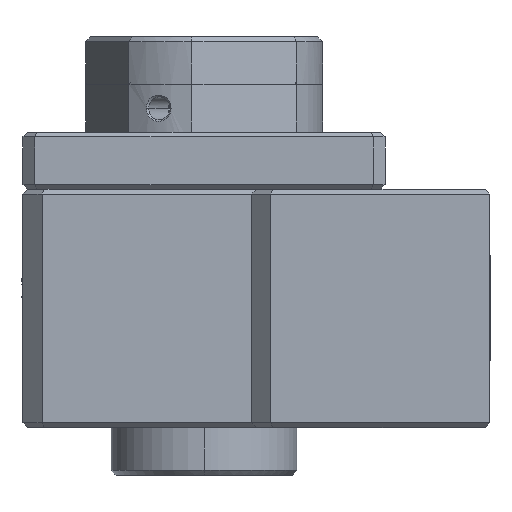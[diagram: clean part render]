
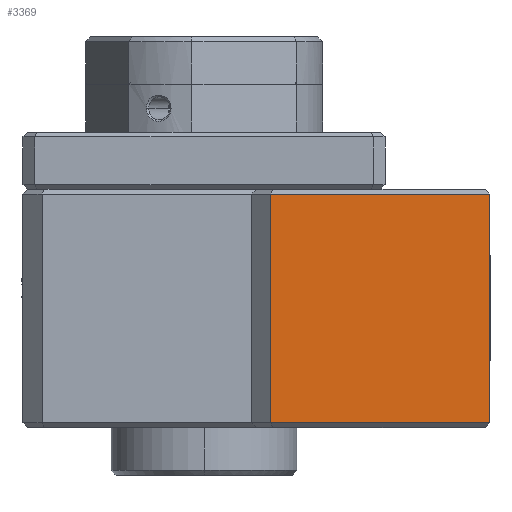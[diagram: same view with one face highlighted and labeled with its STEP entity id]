
A CAD part, left-side view. The second image highlights one B-rep face of the part: STEP entity #3369.
In plain terms, the highlighted planar face has unit normal (1, 0, 0).
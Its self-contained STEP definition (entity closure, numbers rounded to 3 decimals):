
#15 = EDGE_CURVE ( 'NONE', #11562, #10025, #12438, .T. ) ;
#140 = CARTESIAN_POINT ( 'NONE',  ( -33.938, 22.813, -4. ) ) ;
#545 = CARTESIAN_POINT ( 'NONE',  ( -33.938, -0.187, -12. ) ) ;
#900 = CARTESIAN_POINT ( 'NONE',  ( -33.938, 15.146, 12. ) ) ;
#1010 = CARTESIAN_POINT ( 'NONE',  ( -33.938, -0.187, -12. ) ) ;
#1168 = EDGE_CURVE ( 'NONE', #6449, #4175, #3472, .T. ) ;
#1361 = AXIS2_PLACEMENT_3D ( 'NONE', #6855, #5294, #10913 ) ;
#2297 = ORIENTED_EDGE ( 'NONE', *, *, #1168, .T. ) ;
#3073 = CARTESIAN_POINT ( 'NONE',  ( -33.938, -0.187, 12. ) ) ;
#3369 = ADVANCED_FACE ( 'NONE', ( #6672 ), #15150, .T. ) ;
#3472 = B_SPLINE_CURVE_WITH_KNOTS ( 'NONE', 3,
 ( #9026, #900, #6513, #13421 ),
 .UNSPECIFIED., .F., .F.,
 ( 4, 4 ),
 ( 0., 1. ),
 .UNSPECIFIED. ) ;
#3871 = ORIENTED_EDGE ( 'NONE', *, *, #9943, .F. ) ;
#3957 = CARTESIAN_POINT ( 'NONE',  ( -33.938, -0.187, 12. ) ) ;
#4175 = VERTEX_POINT ( 'NONE', #3073 ) ;
#5144 = CARTESIAN_POINT ( 'NONE',  ( -33.938, 22.813, 12. ) ) ;
#5294 = DIRECTION ( 'NONE',  ( 1., 0., 0. ) ) ;
#5693 = CARTESIAN_POINT ( 'NONE',  ( -33.938, 22.813, -12. ) ) ;
#5960 = CARTESIAN_POINT ( 'NONE',  ( -33.938, 22.813, 12. ) ) ;
#6449 = VERTEX_POINT ( 'NONE', #5144 ) ;
#6513 = CARTESIAN_POINT ( 'NONE',  ( -33.938, 7.48, 12. ) ) ;
#6626 = CARTESIAN_POINT ( 'NONE',  ( -33.938, 22.813, -12. ) ) ;
#6672 = FACE_OUTER_BOUND ( 'NONE', #14081, .T. ) ;
#6855 = CARTESIAN_POINT ( 'NONE',  ( -33.938, -0.187, 12. ) ) ;
#7932 = ORIENTED_EDGE ( 'NONE', *, *, #15, .T. ) ;
#7936 = CARTESIAN_POINT ( 'NONE',  ( -33.938, 7.48, -12. ) ) ;
#9026 = CARTESIAN_POINT ( 'NONE',  ( -33.938, 22.813, 12. ) ) ;
#9943 = EDGE_CURVE ( 'NONE', #11562, #4175, #13984, .T. ) ;
#10025 = VERTEX_POINT ( 'NONE', #5693 ) ;
#10096 = CARTESIAN_POINT ( 'NONE',  ( -33.938, 22.813, -12. ) ) ;
#10913 = DIRECTION ( 'NONE',  ( 0., 1., 0. ) ) ;
#10946 = CARTESIAN_POINT ( 'NONE',  ( -33.938, -0.187, -4. ) ) ;
#11562 = VERTEX_POINT ( 'NONE', #545 ) ;
#12324 = CARTESIAN_POINT ( 'NONE',  ( -33.938, -0.187, -12. ) ) ;
#12438 = B_SPLINE_CURVE_WITH_KNOTS ( 'NONE', 3,
 ( #1010, #7936, #15003, #6626 ),
 .UNSPECIFIED., .F., .F.,
 ( 4, 4 ),
 ( 0., 1. ),
 .UNSPECIFIED. ) ;
#12949 = CARTESIAN_POINT ( 'NONE',  ( -33.938, 22.813, 4. ) ) ;
#13152 = B_SPLINE_CURVE_WITH_KNOTS ( 'NONE', 3,
 ( #10096, #140, #12949, #5960 ),
 .UNSPECIFIED., .F., .F.,
 ( 4, 4 ),
 ( 0., 1. ),
 .UNSPECIFIED. ) ;
#13421 = CARTESIAN_POINT ( 'NONE',  ( -33.938, -0.187, 12. ) ) ;
#13984 = B_SPLINE_CURVE_WITH_KNOTS ( 'NONE', 3,
 ( #12324, #10946, #16533, #3957 ),
 .UNSPECIFIED., .F., .F.,
 ( 4, 4 ),
 ( 0., 1. ),
 .UNSPECIFIED. ) ;
#14081 = EDGE_LOOP ( 'NONE', ( #7932, #17149, #2297, #3871 ) ) ;
#15003 = CARTESIAN_POINT ( 'NONE',  ( -33.938, 15.146, -12. ) ) ;
#15150 = PLANE ( 'NONE',  #1361 ) ;
#16533 = CARTESIAN_POINT ( 'NONE',  ( -33.938, -0.187, 4. ) ) ;
#16914 = EDGE_CURVE ( 'NONE', #10025, #6449, #13152, .T. ) ;
#17149 = ORIENTED_EDGE ( 'NONE', *, *, #16914, .T. ) ;
